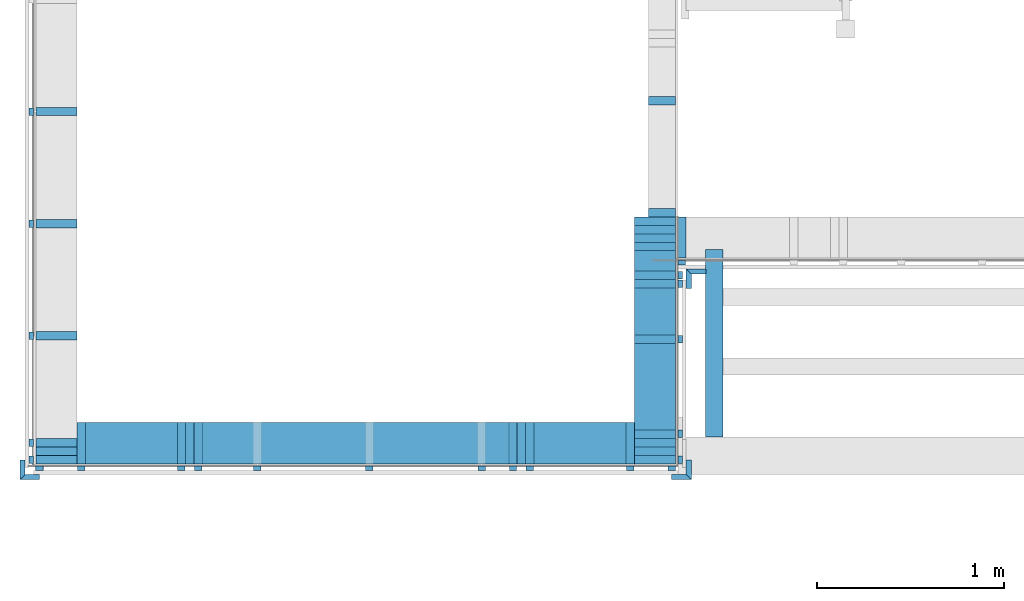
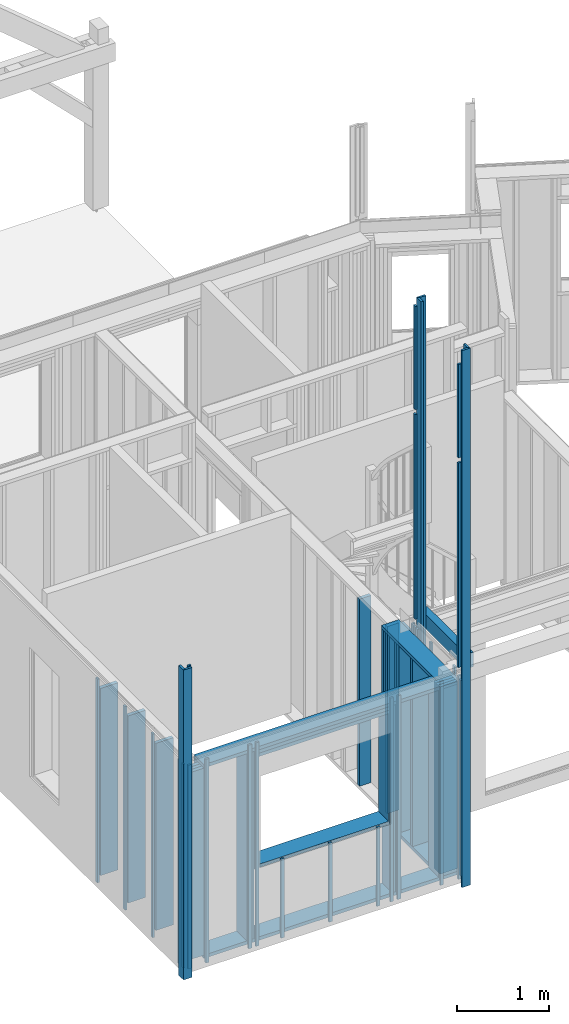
# One storey, part 4 of 34: 68 members, 1 beam.
"""IFC2X3 building model written with IfcOpenShell, lengths in metres."""

from ifc_helpers import new_model, si_unit, direction, frame, origin_with_axes, place, context, subcontext, project, spatial, faceted_brep, material, element, save


model = new_model("IFC2X3")

# Units and contexts
model_context = context("Model", 3, precision=1e-06, world=origin_with_axes(), true_north=direction((0.0, 1.0, 0.0)))
body_context = subcontext(model_context, "Body", "Model", "MODEL_VIEW")
ifc_project = project(units=[si_unit("LENGTHUNIT", "METRE"), si_unit("AREAUNIT", "SQUARE_METRE"), si_unit("VOLUMEUNIT", "CUBIC_METRE"), si_unit("PLANEANGLEUNIT", "RADIAN")], contexts=[model_context])

# Site, building, storey
site_placement = place(None, origin_with_axes())
site = spatial("IfcSite", under=ifc_project, at=site_placement, CompositionType="ELEMENT")
building_placement = place(site_placement, origin_with_axes())
building = spatial("IfcBuilding", under=site, at=building_placement, Name="Building 1", CompositionType="ELEMENT")
storey_placement = place(building_placement, origin_with_axes())
storey = spatial("IfcBuildingStorey", under=building, at=storey_placement, Name="Rez de chaussée", CompositionType="ELEMENT", Elevation=0.0)

# Members
ifc_material_1 = material(Name="Epicéa C24")
member_1_placement = place(storey_placement, frame((-0.013, 0.0345, 2.703), z_axis=(-1.0, 0.0, 0.0), x_axis=(0.0, 0.0, -1.0)))
element("IfcMember", 1, at=member_1_placement, inside=storey, material=ifc_material_1, Name="latte 27/40", context=body_context, shape_type="Brep", body=[
    faceted_brep([(0.0, -0.02, 0.012), (0.0, 0.02, 0.012), (0.0, 0.02, -0.012), (0.0, -0.02, -0.012), (2.698, 0.02, -0.012), (2.698, -0.02, -0.012), (2.698, -0.02, 0.012), (2.698, 0.02, 0.012)], [[[0, 1, 2, 3]], [[3, 2, 4, 5]], [[0, 3, 5, 6]], [[1, 0, 6, 7]], [[7, 6, 5, 4]], [[2, 1, 7, 4]]]),
])
for number, where, z_axis, x_axis, name in (
    (2, (3.4705, 1.2228281, 2.568), (0.0, 1.0, 0.0), (0.0, 0.0, -1.0), "Montant"),
    (3, (3.326, 0.1245, 2.568), (1.0, 0.0, 0.0), (0.0, 0.0, -1.0), "Montant"),
):
    element("IfcMember", number, at=place(storey_placement, frame(where, z_axis=z_axis, x_axis=x_axis)), inside=storey, material=ifc_material_1, Name=name, context=body_context, shape_type="Brep", body=[
        faceted_brep([(2.478, -0.0225, -0.11), (2.478, 0.0225, -0.11), (2.478, 0.0225, 0.11), (2.478, -0.0225, 0.11), (0.0, -0.0225, 0.11), (0.0, -0.0225, -0.11), (0.0, 0.0225, -0.11), (0.0, 0.0225, 0.11)], [[[0, 1, 2, 3]], [[0, 3, 4, 5]], [[1, 0, 5, 6]], [[2, 1, 6, 7]], [[3, 2, 7, 4]], [[4, 7, 6, 5]]]),
    ])
member_2_placement = place(storey_placement, frame((2.5665, -0.013, 2.703), z_axis=(0.0, -1.0, 0.0), x_axis=(0.0, 0.0, -1.0)))
element("IfcMember", 4, at=member_2_placement, inside=storey, material=ifc_material_1, Name="latte 27/40", context=body_context, shape_type="Brep", body=[
    faceted_brep([(2.698, 0.02, -0.012), (2.698, 0.02, 0.012), (2.698, -0.02, 0.012), (2.698, -0.02, -0.012), (0.0, 0.02, 0.012), (0.0, 0.02, -0.012), (0.0, -0.02, -0.012), (0.0, -0.02, 0.012)], [[[0, 1, 2, 3]], [[4, 5, 6, 7]], [[3, 6, 5, 0]], [[2, 7, 6, 3]], [[1, 4, 7, 2]], [[0, 5, 4, 1]]]),
])
member_3_placement = place(storey_placement, frame((0.03, -0.013, 4.0178151), z_axis=(0.0, -1.0, 0.0), x_axis=(0.0, 0.0, -1.0)))
element("IfcMember", 5, at=member_3_placement, inside=storey, material=ifc_material_1, Name="latte chantier", context=body_context, shape_type="Brep", body=[
    faceted_brep([(1.2078151, 0.02, -0.012), (1.2078151, 0.02, 0.012), (1.2078151, -0.02, 0.012), (1.2078151, -0.02, -0.012), (0.0, 0.02, 0.012), (0.0, 0.02, -0.012), (0.0, -0.02, -0.012), (0.0, -0.02, 0.012)], [[[0, 1, 2, 3]], [[4, 5, 6, 7]], [[3, 6, 5, 0]], [[2, 7, 6, 3]], [[1, 4, 7, 2]], [[0, 5, 4, 1]]]),
])
member_4_placement = place(storey_placement, frame((3.1935, 0.122, 2.568), z_axis=(0.0, -1.0, 0.0), x_axis=(0.0, 0.0, -1.0)))
element("IfcMember", 6, at=member_4_placement, inside=storey, material=ifc_material_1, Name="Montant", context=body_context, shape_type="Brep", body=[
    faceted_brep([(2.478, -0.0225, -0.11), (2.478, 0.0225, -0.11), (2.478, 0.0225, 0.11), (2.478, -0.0225, 0.11), (0.0, -0.0225, 0.11), (0.0, -0.0225, -0.11), (0.0, 0.0225, -0.11), (0.0, 0.0225, 0.11)], [[[0, 1, 2, 3]], [[0, 3, 4, 5]], [[1, 0, 5, 6]], [[2, 1, 6, 7]], [[3, 2, 7, 4]], [[4, 7, 6, 5]]]),
])
ifc_material_2 = material(Name="NH II")
member_5_placement = place(storey_placement, frame((3.4685, -0.0595, -0.08), z_axis=(1.0, 0.0, 0.0), x_axis=(0.0, 0.0, 1.0)))
element("IfcMember", 7, at=member_5_placement, inside=storey, material=ifc_material_2, Name="Couvre joint", context=body_context, shape_type="Brep", body=[
    faceted_brep([(0.0, 0.0135, 0.0525), (0.0, -0.0135, 0.0255), (7.1104713, -0.0135, 0.0255), (7.1104713, 0.0135, 0.0525), (7.1104713, -0.0135, -0.0525), (7.1104713, 0.0135, -0.0525), (0.0, -0.0135, -0.0525), (0.0, 0.0135, -0.0525)], [[[0, 1, 2, 3]], [[3, 2, 4, 5]], [[2, 1, 6, 4]], [[1, 0, 7, 6]], [[4, 6, 7, 5]], [[5, 7, 0, 3]]]),
])
for number, where, z_axis, x_axis, name in (
    (8, (3.461, 0.9758281, 2.703), (-1.0, 0.0, 0.0), (0.0, 0.0, -1.0), "latte 27/40"),
    (9, (-0.013, 0.1245, 2.703), (-1.0, 0.0, 0.0), (0.0, 0.0, -1.0), "latte 27/40"),
):
    element("IfcMember", number, at=place(storey_placement, frame(where, z_axis=z_axis, x_axis=x_axis)), inside=storey, material=ifc_material_1, Name=name, context=body_context, shape_type="Brep", body=[
        faceted_brep([(0.0, -0.02, 0.012), (0.0, 0.02, 0.012), (0.0, 0.02, -0.012), (0.0, -0.02, -0.012), (2.698, 0.02, -0.012), (2.698, -0.02, -0.012), (2.698, -0.02, 0.012), (2.698, 0.02, 0.012)], [[[0, 1, 2, 3]], [[3, 2, 4, 5]], [[0, 3, 5, 6]], [[1, 0, 6, 7]], [[7, 6, 5, 4]], [[2, 1, 7, 4]]]),
    ])
member_6_placement = place(storey_placement, frame((3.416, -0.013, 5.5204713), z_axis=(0.0, -1.0, 0.0), x_axis=(0.0, 0.0, -1.0)))
element("IfcMember", 10, at=member_6_placement, inside=storey, material=ifc_material_1, Name="latte chantier", context=body_context, shape_type="Brep", body=[
    faceted_brep([(2.7104713, 0.02, -0.012), (2.7104713, 0.02, 0.012), (2.7104713, -0.02, 0.012), (2.7104713, -0.02, -0.012), (0.0, 0.02, 0.012), (0.0, 0.02, -0.012), (0.0, -0.02, -0.012), (0.0, -0.02, 0.012)], [[[0, 1, 2, 3]], [[4, 5, 6, 7]], [[3, 6, 5, 0]], [[2, 7, 6, 3]], [[1, 4, 7, 2]], [[0, 5, 4, 1]]]),
])
member_7_placement = place(storey_placement, frame((0.7915, 0.122, 2.568), z_axis=(0.0, -1.0, 0.0), x_axis=(0.0, 0.0, -1.0)))
element("IfcMember", 11, at=member_7_placement, inside=storey, material=ifc_material_1, Name="Montant", context=body_context, shape_type="Brep", body=[
    faceted_brep([(2.478, -0.0225, -0.11), (2.478, 0.0225, -0.11), (2.478, 0.0225, 0.11), (2.478, -0.0225, 0.11), (0.0, -0.0225, 0.11), (0.0, -0.0225, -0.11), (0.0, 0.0225, -0.11), (0.0, 0.0225, 0.11)], [[[0, 1, 2, 3]], [[0, 3, 4, 5]], [[1, 0, 5, 6]], [[2, 1, 6, 7]], [[3, 2, 7, 4]], [[4, 7, 6, 5]]]),
])
member_8_placement = place(storey_placement, frame((3.5075, 1.0023281, -0.08), z_axis=(0.0, 1.0, 0.0), x_axis=(0.0, 0.0, 1.0)))
element("IfcMember", 12, at=member_8_placement, inside=storey, material=ifc_material_2, Name="Couvre joint", context=body_context, shape_type="Brep", body=[
    faceted_brep([(0.0, 0.0135, 0.0255), (0.0, -0.0135, 0.0525), (7.1104713, -0.0135, 0.0525), (7.1104713, 0.0135, 0.0255), (7.1104713, -0.0135, -0.0525), (7.1104713, 0.0135, -0.0525), (0.0, 0.0135, -0.0525), (0.0, -0.0135, -0.0525)], [[[0, 1, 2, 3]], [[3, 2, 4, 5]], [[1, 0, 6, 7]], [[4, 7, 6, 5]], [[2, 1, 7, 4]], [[0, 3, 5, 6]]]),
])
for number, where, z_axis, x_axis, name in (
    (13, (0.2545, -0.013, 2.703), (0.0, -1.0, 0.0), (0.0, 0.0, -1.0), "latte 27/40"),
    (14, (3.4705, 1.0878281, 2.703), (0.0, 1.0, 0.0), (0.0, 0.0, -1.0), "latte 27/40"),
):
    element("IfcMember", number, at=place(storey_placement, frame(where, z_axis=z_axis, x_axis=x_axis)), inside=storey, material=ifc_material_1, Name=name, context=body_context, shape_type="Brep", body=[
        faceted_brep([(2.698, 0.02, -0.012), (2.698, 0.02, 0.012), (2.698, -0.02, 0.012), (2.698, -0.02, -0.012), (0.0, 0.02, 0.012), (0.0, 0.02, -0.012), (0.0, -0.02, -0.012), (0.0, -0.02, 0.012)], [[[0, 1, 2, 3]], [[4, 5, 6, 7]], [[3, 6, 5, 0]], [[2, 7, 6, 3]], [[1, 4, 7, 2]], [[0, 5, 4, 1]]]),
    ])
for number, where, z_axis, x_axis, name in (
    (15, (0.122, 0.0345, 2.568), (-1.0, 0.0, 0.0), (0.0, 0.0, -1.0), "Montant"),
    (16, (3.326, 0.0795, 2.568), (1.0, 0.0, 0.0), (0.0, 0.0, -1.0), "Montant"),
):
    element("IfcMember", number, at=place(storey_placement, frame(where, z_axis=z_axis, x_axis=x_axis)), inside=storey, material=ifc_material_1, Name=name, context=body_context, shape_type="Brep", body=[
        faceted_brep([(2.478, -0.0225, -0.11), (2.478, 0.0225, -0.11), (2.478, 0.0225, 0.11), (2.478, -0.0225, 0.11), (0.0, -0.0225, 0.11), (0.0, -0.0225, -0.11), (0.0, 0.0225, -0.11), (0.0, 0.0225, 0.11)], [[[0, 1, 2, 3]], [[0, 3, 4, 5]], [[1, 0, 5, 6]], [[2, 1, 6, 7]], [[3, 2, 7, 4]], [[4, 7, 6, 5]]]),
    ])
member_9_placement = place(storey_placement, frame((-0.0595, -0.0205, -0.08), z_axis=(0.0, 1.0, 0.0), x_axis=(0.0, 0.0, 1.0)))
element("IfcMember", 17, at=member_9_placement, inside=storey, material=ifc_material_2, Name="Couvre joint", context=body_context, shape_type="Brep", body=[
    faceted_brep([(0.0, -0.0135, -0.0525), (0.0, 0.0135, -0.0255), (4.1028151, 0.0135, -0.0255), (4.1028151, -0.0135, -0.0525), (4.1028151, 0.0135, 0.0525), (4.1028151, -0.0135, 0.0525), (0.0, 0.0135, 0.0525), (0.0, -0.0135, 0.0525)], [[[0, 1, 2, 3]], [[3, 2, 4, 5]], [[2, 1, 6, 4]], [[1, 0, 7, 6]], [[5, 7, 0, 3]], [[4, 6, 7, 5]]]),
])
for number, where, z_axis, x_axis, name in (
    (18, (0.122, 0.698, 2.568), (-1.0, 0.0, 0.0), (0.0, 0.0, -1.0), "Montant"),
    (19, (3.326, 1.2653281, 2.568), (-1.0, 0.0, 0.0), (0.0, 0.0, -1.0), "Montant"),
    (20, (3.326, 0.6795, 2.568), (1.0, 0.0, 0.0), (0.0, 0.0, -1.0), "Montant"),
    (21, (3.326, 0.9758281, 2.568), (-1.0, 0.0, 0.0), (0.0, 0.0, -1.0), "Montant"),
):
    element("IfcMember", number, at=place(storey_placement, frame(where, z_axis=z_axis, x_axis=x_axis)), inside=storey, material=ifc_material_1, Name=name, context=body_context, shape_type="Brep", body=[
        faceted_brep([(2.478, -0.0225, -0.11), (2.478, 0.0225, -0.11), (2.478, 0.0225, 0.11), (2.478, -0.0225, 0.11), (0.0, -0.0225, 0.11), (0.0, -0.0225, -0.11), (0.0, 0.0225, -0.11), (0.0, 0.0225, 0.11)], [[[0, 1, 2, 3]], [[0, 3, 4, 5]], [[1, 0, 5, 6]], [[2, 1, 6, 7]], [[3, 2, 7, 4]], [[4, 7, 6, 5]]]),
    ])
member_10_placement = place(storey_placement, frame((-0.013, 1.898, 2.703), z_axis=(-1.0, 0.0, 0.0), x_axis=(0.0, 0.0, -1.0)))
element("IfcMember", 22, at=member_10_placement, inside=storey, material=ifc_material_1, Name="latte 27/40", context=body_context, shape_type="Brep", body=[
    faceted_brep([(0.0, -0.02, 0.012), (0.0, 0.02, 0.012), (0.0, 0.02, -0.012), (0.0, -0.02, -0.012), (2.698, 0.02, -0.012), (2.698, -0.02, -0.012), (2.698, -0.02, 0.012), (2.698, 0.02, 0.012)], [[[0, 1, 2, 3]], [[3, 2, 4, 5]], [[0, 3, 5, 6]], [[1, 0, 6, 7]], [[7, 6, 5, 4]], [[2, 1, 7, 4]]]),
])

# Beam
beam_placement = place(storey_placement, frame((3.644, 1.1588281, 2.709), z_axis=(0.0, 0.0, -1.0), x_axis=(0.0, -1.0, 0.0)))
element("IfcBeam", 23, at=beam_placement, inside=storey, material=ifc_material_2, Name="Solive balcon", context=body_context, shape_type="Brep", body=[
    faceted_brep([(1.0028281, -0.046, 0.096), (1.0028281, -0.046, -0.096), (1.0028281, 0.046, -0.096), (1.0028281, 0.046, 0.096), (0.0, -0.046, -0.096), (0.0, -0.046, 0.096), (0.0, 0.046, 0.096), (0.0, 0.046, -0.096)], [[[0, 1, 2, 3]], [[4, 5, 6, 7]], [[3, 6, 5, 0]], [[2, 7, 6, 3]], [[1, 4, 7, 2]], [[0, 5, 4, 1]]]),
])

# Members
for number, where, z_axis, x_axis, name in (
    (24, (0.122, 0.1245, 2.568), (-1.0, 0.0, 0.0), (0.0, 0.0, -1.0), "Montant"),
    (25, (3.326, 1.3103281, 2.568), (-1.0, 0.0, 0.0), (0.0, 0.0, -1.0), "Montant"),
):
    element("IfcMember", number, at=place(storey_placement, frame(where, z_axis=z_axis, x_axis=x_axis)), inside=storey, material=ifc_material_1, Name=name, context=body_context, shape_type="Brep", body=[
        faceted_brep([(2.478, -0.0225, -0.11), (2.478, 0.0225, -0.11), (2.478, 0.0225, 0.11), (2.478, -0.0225, 0.11), (0.0, -0.0225, 0.11), (0.0, -0.0225, -0.11), (0.0, 0.0225, -0.11), (0.0, 0.0225, 0.11)], [[[0, 1, 2, 3]], [[0, 3, 4, 5]], [[1, 0, 5, 6]], [[2, 1, 6, 7]], [[3, 2, 7, 4]], [[4, 7, 6, 5]]]),
    ])
member_11_placement = place(storey_placement, frame((0.8815, 0.122, 2.478), z_axis=(0.0, -1.0, 0.0), x_axis=(0.0, 0.0, -1.0)))
element("IfcMember", 26, at=member_11_placement, inside=storey, material=ifc_material_1, Name="Montant", context=body_context, shape_type="Brep", body=[
    faceted_brep([(1.426, -0.0225, -0.11), (1.426, 0.0225, -0.11), (1.426, 0.0225, 0.11), (1.426, -0.0225, 0.11), (0.0, -0.0225, 0.11), (0.0, -0.0225, -0.11), (0.0, 0.0225, -0.11), (0.0, 0.0225, 0.11)], [[[0, 1, 2, 3]], [[0, 3, 4, 5]], [[1, 0, 5, 6]], [[2, 1, 6, 7]], [[3, 2, 7, 4]], [[4, 7, 6, 5]]]),
])
member_12_placement = place(storey_placement, frame((3.5465, 1.0413281, -0.08), z_axis=(1.0, 0.0, 0.0), x_axis=(0.0, 0.0, 1.0)))
element("IfcMember", 27, at=member_12_placement, inside=storey, material=ifc_material_2, Name="Couvre joint", context=body_context, shape_type="Brep", body=[
    faceted_brep([(0.0, -0.0135, -0.0525), (0.0, 0.0135, -0.0255), (7.1104713, 0.0135, -0.0255), (7.1104713, -0.0135, -0.0525), (0.0, 0.0135, 0.0525), (7.1104713, 0.0135, 0.0525), (0.0, -0.0135, 0.0525), (7.1104713, -0.0135, 0.0525)], [[[0, 1, 2, 3]], [[2, 1, 4, 5]], [[1, 0, 6, 4]], [[3, 2, 5, 7]], [[7, 6, 0, 3]], [[5, 4, 6, 7]]]),
])
for number, where, z_axis, x_axis, name in (
    (28, (0.8365, 0.122, 2.568), (0.0, -1.0, 0.0), (0.0, 0.0, -1.0), "Montant"),
    (29, (0.2545, 0.122, 2.568), (0.0, -1.0, 0.0), (0.0, 0.0, -1.0), "Montant"),
):
    element("IfcMember", number, at=place(storey_placement, frame(where, z_axis=z_axis, x_axis=x_axis)), inside=storey, material=ifc_material_1, Name=name, context=body_context, shape_type="Brep", body=[
        faceted_brep([(2.478, -0.0225, -0.11), (2.478, 0.0225, -0.11), (2.478, 0.0225, 0.11), (2.478, -0.0225, 0.11), (0.0, -0.0225, 0.11), (0.0, -0.0225, -0.11), (0.0, 0.0225, -0.11), (0.0, 0.0225, 0.11)], [[[0, 1, 2, 3]], [[0, 3, 4, 5]], [[1, 0, 5, 6]], [[2, 1, 6, 7]], [[3, 2, 7, 4]], [[4, 7, 6, 5]]]),
    ])
member_13_placement = place(storey_placement, frame((0.232, 0.122, 2.5905), z_axis=(0.0, 1.0, 0.0), x_axis=(1.0, 0.0, 0.0)))
element("IfcMember", 30, at=member_13_placement, inside=storey, material=ifc_material_1, Name="Montant", context=body_context, shape_type="Brep", body=[
    faceted_brep([(2.984, 0.0225, -0.11), (0.0, 0.0225, -0.11), (0.0, 0.0225, 0.11), (2.984, 0.0225, 0.11), (2.984, -0.0225, 0.11), (2.984, -0.0225, -0.11), (0.0, -0.0225, 0.11), (0.0, -0.0225, -0.11)], [[[0, 1, 2, 3]], [[3, 4, 5, 0]], [[6, 2, 1, 7]], [[5, 7, 1, 0]], [[6, 7, 5, 4]], [[2, 6, 4, 3]]]),
])
member_14_placement = place(storey_placement, frame((3.416, -0.013, 2.703), z_axis=(0.0, -1.0, 0.0), x_axis=(0.0, 0.0, -1.0)))
element("IfcMember", 31, at=member_14_placement, inside=storey, material=ifc_material_1, Name="latte chantier", context=body_context, shape_type="Brep", body=[
    faceted_brep([(2.698, 0.02, -0.012), (2.698, 0.02, 0.012), (2.698, -0.02, 0.012), (2.698, -0.02, -0.012), (0.0, 0.02, 0.012), (0.0, 0.02, -0.012), (0.0, -0.02, -0.012), (0.0, -0.02, 0.012)], [[[0, 1, 2, 3]], [[4, 5, 6, 7]], [[3, 6, 5, 0]], [[2, 7, 6, 3]], [[1, 4, 7, 2]], [[0, 5, 4, 1]]]),
])
for number, where, z_axis, x_axis, name in (
    (32, (0.122, 1.298, 2.568), (-1.0, 0.0, 0.0), (0.0, 0.0, -1.0), "Montant"),
    (33, (3.326, 1.0208281, 2.568), (-1.0, 0.0, 0.0), (0.0, 0.0, -1.0), "Montant"),
    (34, (0.122, 0.0795, 2.568), (-1.0, 0.0, 0.0), (0.0, 0.0, -1.0), "Montant"),
):
    element("IfcMember", number, at=place(storey_placement, frame(where, z_axis=z_axis, x_axis=x_axis)), inside=storey, material=ifc_material_1, Name=name, context=body_context, shape_type="Brep", body=[
        faceted_brep([(2.478, -0.0225, -0.11), (2.478, 0.0225, -0.11), (2.478, 0.0225, 0.11), (2.478, -0.0225, 0.11), (0.0, -0.0225, 0.11), (0.0, -0.0225, -0.11), (0.0, 0.0225, -0.11), (0.0, 0.0225, 0.11)], [[[0, 1, 2, 3]], [[0, 3, 4, 5]], [[1, 0, 5, 6]], [[2, 1, 6, 7]], [[3, 2, 7, 4]], [[4, 7, 6, 5]]]),
    ])
member_15_placement = place(storey_placement, frame((3.461, 1.0208281, 2.703), z_axis=(-1.0, 0.0, 0.0), x_axis=(0.0, 0.0, -1.0)))
element("IfcMember", 35, at=member_15_placement, inside=storey, material=ifc_material_1, Name="latte chantier", context=body_context, shape_type="Brep", body=[
    faceted_brep([(0.0, -0.02, 0.012), (0.0, 0.02, 0.012), (0.0, 0.02, -0.012), (0.0, -0.02, -0.012), (2.698, 0.02, -0.012), (2.698, -0.02, -0.012), (2.698, -0.02, 0.012), (2.698, 0.02, 0.012)], [[[0, 1, 2, 3]], [[3, 2, 4, 5]], [[0, 3, 5, 6]], [[1, 0, 6, 7]], [[7, 6, 5, 4]], [[2, 1, 7, 4]]]),
])
member_16_placement = place(storey_placement, frame((3.326, 0.0345, 2.568), z_axis=(1.0, 0.0, 0.0), x_axis=(0.0, 0.0, -1.0)))
element("IfcMember", 36, at=member_16_placement, inside=storey, material=ifc_material_1, Name="Montant", context=body_context, shape_type="Brep", body=[
    faceted_brep([(2.478, -0.0225, -0.11), (2.478, 0.0225, -0.11), (2.478, 0.0225, 0.11), (2.478, -0.0225, 0.11), (0.0, -0.0225, 0.11), (0.0, -0.0225, -0.11), (0.0, 0.0225, -0.11), (0.0, 0.0225, 0.11)], [[[0, 1, 2, 3]], [[0, 3, 4, 5]], [[1, 0, 5, 6]], [[2, 1, 6, 7]], [[3, 2, 7, 4]], [[4, 7, 6, 5]]]),
])
for number, where, z_axis, x_axis, name in (
    (37, (0.032, -0.013, 2.703), (0.0, -1.0, 0.0), (0.0, 0.0, -1.0), "latte chantier"),
    (38, (3.1935, -0.013, 2.703), (0.0, -1.0, 0.0), (0.0, 0.0, -1.0), "latte 27/40"),
):
    element("IfcMember", number, at=place(storey_placement, frame(where, z_axis=z_axis, x_axis=x_axis)), inside=storey, material=ifc_material_1, Name=name, context=body_context, shape_type="Brep", body=[
        faceted_brep([(2.698, 0.02, -0.012), (2.698, 0.02, 0.012), (2.698, -0.02, 0.012), (2.698, -0.02, -0.012), (0.0, 0.02, 0.012), (0.0, 0.02, -0.012), (0.0, -0.02, -0.012), (0.0, -0.02, 0.012)], [[[0, 1, 2, 3]], [[4, 5, 6, 7]], [[3, 6, 5, 0]], [[2, 7, 6, 3]], [[1, 4, 7, 2]], [[0, 5, 4, 1]]]),
    ])
member_17_placement = place(storey_placement, frame((0.232, 0.122, 0.0675), z_axis=(0.0, 1.0, 0.0), x_axis=(1.0, 0.0, 0.0)))
element("IfcMember", 39, at=member_17_placement, inside=storey, material=ifc_material_1, Name="Lisse basse", context=body_context, shape_type="Brep", body=[
    faceted_brep([(2.984, 0.0225, -0.11), (0.0, 0.0225, -0.11), (0.0, 0.0225, 0.11), (2.984, 0.0225, 0.11), (2.984, -0.0225, 0.11), (2.984, -0.0225, -0.11), (0.0, -0.0225, 0.11), (0.0, -0.0225, -0.11)], [[[0, 1, 2, 3]], [[3, 4, 5, 0]], [[6, 2, 1, 7]], [[5, 7, 1, 0]], [[6, 7, 5, 4]], [[2, 6, 4, 3]]]),
])
member_18_placement = place(storey_placement, frame((3.326, 0.012, 0.0675), z_axis=(-1.0, 0.0, 0.0), x_axis=(0.0, 1.0, 0.0)))
element("IfcMember", 40, at=member_18_placement, inside=storey, material=ifc_material_1, Name="Lisse basse", context=body_context, shape_type="Brep", body=[
    faceted_brep([(1.3208281, -0.0225, -0.11), (0.0, -0.0225, -0.11), (0.0, 0.0225, -0.11), (1.3208281, 0.0225, -0.11), (1.3208281, 0.0225, 0.11), (1.3208281, -0.0225, 0.11), (0.0, -0.0225, 0.11), (0.0, 0.0225, 0.11)], [[[0, 1, 2, 3]], [[3, 4, 5, 0]], [[6, 1, 0, 5]], [[2, 7, 4, 3]], [[7, 6, 5, 4]], [[2, 1, 6, 7]]]),
])
member_19_placement = place(storey_placement, frame((3.461, 0.6795, 2.703), z_axis=(1.0, 0.0, 0.0), x_axis=(0.0, 0.0, -1.0)))
element("IfcMember", 41, at=member_19_placement, inside=storey, material=ifc_material_1, Name="latte 27/40", context=body_context, shape_type="Brep", body=[
    faceted_brep([(0.0, -0.02, 0.012), (0.0, 0.02, 0.012), (0.0, 0.02, -0.012), (0.0, -0.02, -0.012), (2.698, 0.02, -0.012), (2.698, -0.02, -0.012), (2.698, 0.02, 0.012), (2.698, -0.02, 0.012)], [[[0, 1, 2, 3]], [[3, 2, 4, 5]], [[2, 1, 6, 4]], [[1, 0, 7, 6]], [[6, 7, 5, 4]], [[0, 3, 5, 7]]]),
])
member_20_placement = place(storey_placement, frame((3.326, 0.012, 2.5905), z_axis=(-1.0, 0.0, 0.0), x_axis=(0.0, 1.0, 0.0)))
element("IfcMember", 42, at=member_20_placement, inside=storey, material=ifc_material_1, Name="Montant", context=body_context, shape_type="Brep", body=[
    faceted_brep([(1.3208281, -0.0225, -0.11), (0.0, -0.0225, -0.11), (0.0, 0.0225, -0.11), (1.3208281, 0.0225, -0.11), (1.3208281, 0.0225, 0.11), (1.3208281, -0.0225, 0.11), (0.0, -0.0225, 0.11), (0.0, 0.0225, 0.11)], [[[0, 1, 2, 3]], [[3, 4, 5, 0]], [[6, 1, 0, 5]], [[2, 7, 4, 3]], [[7, 6, 5, 4]], [[2, 1, 6, 7]]]),
])
member_21_placement = place(storey_placement, frame((3.461, 0.0345, 2.6), z_axis=(1.0, 0.0, 0.0), x_axis=(0.0, 0.0, -1.0)))
element("IfcMember", 43, at=member_21_placement, inside=storey, material=ifc_material_1, Name="latte 27/40", context=body_context, shape_type="Brep", body=[
    faceted_brep([(0.0, -0.02, 0.012), (0.0, 0.02, 0.012), (0.0, 0.02, -0.012), (0.0, -0.02, -0.012), (2.595, 0.02, -0.012), (2.595, -0.02, -0.012), (2.595, 0.02, 0.012), (2.595, -0.02, 0.012)], [[[0, 1, 2, 3]], [[3, 2, 4, 5]], [[2, 1, 6, 4]], [[1, 0, 7, 6]], [[6, 7, 5, 4]], [[0, 3, 5, 7]]]),
])
member_22_placement = place(storey_placement, frame((3.3635, 1.9553281, 2.568), z_axis=(1.0, 0.0, 0.0), x_axis=(0.0, 0.0, -1.0)))
element("IfcMember", 44, at=member_22_placement, inside=storey, material=ifc_material_1, Name="Montant", context=body_context, shape_type="Brep", body=[
    faceted_brep([(2.478, -0.0225, -0.0725), (2.478, 0.0225, -0.0725), (2.478, 0.0225, 0.0725), (2.478, -0.0225, 0.0725), (0.0, 0.0225, -0.0725), (0.0, 0.0225, 0.0725), (0.0, -0.0225, -0.0725), (0.0, -0.0225, 0.0725)], [[[0, 1, 2, 3]], [[2, 1, 4, 5]], [[1, 0, 6, 4]], [[0, 3, 7, 6]], [[3, 2, 5, 7]], [[7, 5, 4, 6]]]),
])
member_23_placement = place(storey_placement, frame((3.461, 1.0208281, 5.5204713), z_axis=(-1.0, 0.0, 0.0), x_axis=(0.0, 0.0, -1.0)))
element("IfcMember", 45, at=member_23_placement, inside=storey, material=ifc_material_1, Name="latte chantier", context=body_context, shape_type="Brep", body=[
    faceted_brep([(2.7104713, -0.02, -0.012), (2.7104713, 0.02, -0.012), (2.7104713, 0.02, 0.012), (2.7104713, -0.02, 0.012), (0.0, 0.02, 0.012), (0.0, -0.02, 0.012), (0.0, 0.02, -0.012), (0.0, -0.02, -0.012)], [[[0, 1, 2, 3]], [[3, 2, 4, 5]], [[2, 1, 6, 4]], [[1, 0, 7, 6]], [[6, 7, 5, 4]], [[0, 3, 5, 7]]]),
])
member_24_placement = place(storey_placement, frame((3.3635, 1.3553281, 2.568), z_axis=(1.0, 0.0, 0.0), x_axis=(0.0, 0.0, -1.0)))
element("IfcMember", 46, at=member_24_placement, inside=storey, material=ifc_material_1, Name="Montant", context=body_context, shape_type="Brep", body=[
    faceted_brep([(2.478, -0.0225, -0.0725), (2.478, 0.0225, -0.0725), (2.478, 0.0225, 0.0725), (2.478, -0.0225, 0.0725), (0.0, 0.0225, -0.0725), (0.0, 0.0225, 0.0725), (0.0, -0.0225, -0.0725), (0.0, -0.0225, 0.0725)], [[[0, 1, 2, 3]], [[2, 1, 4, 5]], [[1, 0, 6, 4]], [[0, 3, 7, 6]], [[3, 2, 5, 7]], [[7, 5, 4, 6]]]),
])
member_25_placement = place(storey_placement, frame((3.326, 0.1695, 2.568), z_axis=(1.0, 0.0, 0.0), x_axis=(0.0, 0.0, -1.0)))
element("IfcMember", 47, at=member_25_placement, inside=storey, material=ifc_material_1, Name="Montant", context=body_context, shape_type="Brep", body=[
    faceted_brep([(2.478, -0.0225, -0.11), (2.478, 0.0225, -0.11), (2.478, 0.0225, 0.11), (2.478, -0.0225, 0.11), (0.0, -0.0225, 0.11), (0.0, -0.0225, -0.11), (0.0, 0.0225, -0.11), (0.0, 0.0225, 0.11)], [[[0, 1, 2, 3]], [[0, 3, 4, 5]], [[1, 0, 5, 6]], [[2, 1, 6, 7]], [[3, 2, 7, 4]], [[4, 7, 6, 5]]]),
])
member_26_placement = place(storey_placement, frame((3.461, 0.172, 2.703), z_axis=(1.0, 0.0, 0.0), x_axis=(0.0, 0.0, -1.0)))
element("IfcMember", 48, at=member_26_placement, inside=storey, material=ifc_material_1, Name="latte 27/40", context=body_context, shape_type="Brep", body=[
    faceted_brep([(0.0, -0.02, 0.012), (0.0, 0.02, 0.012), (0.0, 0.02, -0.012), (0.0, -0.02, -0.012), (2.698, 0.02, -0.012), (2.698, -0.02, -0.012), (2.698, 0.02, 0.012), (2.698, -0.02, 0.012)], [[[0, 1, 2, 3]], [[3, 2, 4, 5]], [[2, 1, 6, 4]], [[1, 0, 7, 6]], [[6, 7, 5, 4]], [[0, 3, 5, 7]]]),
])
member_27_placement = place(storey_placement, frame((2.5665, 0.122, 2.478), z_axis=(0.0, -1.0, 0.0), x_axis=(0.0, 0.0, -1.0)))
element("IfcMember", 49, at=member_27_placement, inside=storey, material=ifc_material_1, Name="Montant", context=body_context, shape_type="Brep", body=[
    faceted_brep([(1.426, -0.0225, -0.11), (1.426, 0.0225, -0.11), (1.426, 0.0225, 0.11), (1.426, -0.0225, 0.11), (0.0, -0.0225, 0.11), (0.0, -0.0225, -0.11), (0.0, 0.0225, -0.11), (0.0, 0.0225, 0.11)], [[[0, 1, 2, 3]], [[0, 3, 4, 5]], [[1, 0, 5, 6]], [[2, 1, 6, 7]], [[3, 2, 7, 4]], [[4, 7, 6, 5]]]),
])
member_28_placement = place(storey_placement, frame((-0.013, 1.298, 2.703), z_axis=(-1.0, 0.0, 0.0), x_axis=(0.0, 0.0, -1.0)))
element("IfcMember", 50, at=member_28_placement, inside=storey, material=ifc_material_1, Name="latte 27/40", context=body_context, shape_type="Brep", body=[
    faceted_brep([(0.0, -0.02, 0.012), (0.0, 0.02, 0.012), (0.0, 0.02, -0.012), (0.0, -0.02, -0.012), (2.698, 0.02, -0.012), (2.698, -0.02, -0.012), (2.698, -0.02, 0.012), (2.698, 0.02, 0.012)], [[[0, 1, 2, 3]], [[3, 2, 4, 5]], [[0, 3, 5, 6]], [[1, 0, 6, 7]], [[7, 6, 5, 4]], [[2, 1, 7, 4]]]),
])
member_29_placement = place(storey_placement, frame((1.798, -0.013, 1.052), z_axis=(0.0, -1.0, 0.0), x_axis=(0.0, 0.0, -1.0)))
element("IfcMember", 51, at=member_29_placement, inside=storey, material=ifc_material_1, Name="latte 27/40", context=body_context, shape_type="Brep", body=[
    faceted_brep([(1.047, 0.02, -0.012), (1.047, 0.02, 0.012), (1.047, -0.02, 0.012), (1.047, -0.02, -0.012), (0.0, 0.02, 0.012), (0.0, 0.02, -0.012), (0.0, -0.02, -0.012), (0.0, -0.02, 0.012)], [[[0, 1, 2, 3]], [[4, 5, 6, 7]], [[3, 6, 5, 0]], [[2, 7, 6, 3]], [[1, 4, 7, 2]], [[0, 5, 4, 1]]]),
])
member_30_placement = place(storey_placement, frame((-0.013, 0.698, 2.703), z_axis=(-1.0, 0.0, 0.0), x_axis=(0.0, 0.0, -1.0)))
element("IfcMember", 52, at=member_30_placement, inside=storey, material=ifc_material_1, Name="latte 27/40", context=body_context, shape_type="Brep", body=[
    faceted_brep([(0.0, -0.02, 0.012), (0.0, 0.02, 0.012), (0.0, 0.02, -0.012), (0.0, -0.02, -0.012), (2.698, 0.02, -0.012), (2.698, -0.02, -0.012), (2.698, -0.02, 0.012), (2.698, 0.02, 0.012)], [[[0, 1, 2, 3]], [[3, 2, 4, 5]], [[0, 3, 5, 6]], [[1, 0, 6, 7]], [[7, 6, 5, 4]], [[2, 1, 7, 4]]]),
])
member_31_placement = place(storey_placement, frame((1.198, -0.013, 1.052), z_axis=(0.0, -1.0, 0.0), x_axis=(0.0, 0.0, -1.0)))
element("IfcMember", 53, at=member_31_placement, inside=storey, material=ifc_material_1, Name="latte 27/40", context=body_context, shape_type="Brep", body=[
    faceted_brep([(1.047, 0.02, -0.012), (1.047, 0.02, 0.012), (1.047, -0.02, 0.012), (1.047, -0.02, -0.012), (0.0, 0.02, 0.012), (0.0, 0.02, -0.012), (0.0, -0.02, -0.012), (0.0, -0.02, 0.012)], [[[0, 1, 2, 3]], [[4, 5, 6, 7]], [[3, 6, 5, 0]], [[2, 7, 6, 3]], [[1, 4, 7, 2]], [[0, 5, 4, 1]]]),
])
member_32_placement = place(storey_placement, frame((3.461, 1.0208281, 6.9523725), z_axis=(-1.0, 0.0, 0.0), x_axis=(0.0, 0.0, -1.0)))
element("IfcMember", 54, at=member_32_placement, inside=storey, material=ifc_material_1, Name="latte chantier", context=body_context, shape_type="Brep", body=[
    faceted_brep([(1.3669012, -0.02, -0.012), (1.3669012, 0.02, -0.012), (1.3669012, 0.02, 0.012), (1.3669012, -0.02, 0.012), (0.0, 0.02, 0.012), (0.0, -0.02, 0.012), (0.0, 0.02, -0.012), (0.0, -0.02, -0.012)], [[[0, 1, 2, 3]], [[3, 2, 4, 5]], [[2, 1, 6, 4]], [[1, 0, 7, 6]], [[6, 7, 5, 4]], [[0, 3, 5, 7]]]),
])
member_33_placement = place(storey_placement, frame((3.416, -0.013, 6.8254713), z_axis=(0.0, -1.0, 0.0), x_axis=(0.0, 0.0, -1.0)))
element("IfcMember", 55, at=member_33_placement, inside=storey, material=ifc_material_1, Name="latte chantier", context=body_context, shape_type="Brep", body=[
    faceted_brep([(1.24, 0.02, -0.012), (1.24, 0.02, 0.012), (1.24, -0.02, 0.012), (1.24, -0.02, -0.012), (0.0, 0.02, 0.012), (0.0, 0.02, -0.012), (0.0, -0.02, -0.012), (0.0, -0.02, 0.012)], [[[0, 1, 2, 3]], [[4, 5, 6, 7]], [[3, 6, 5, 0]], [[2, 7, 6, 3]], [[1, 4, 7, 2]], [[0, 5, 4, 1]]]),
])
for number, where, z_axis, x_axis, name in (
    (56, (2.589, 0.122, 2.5455), (0.0, -1.0, 0.0), (-1.0, 0.0, 0.0), "Montant"),
    (57, (2.589, 0.122, 1.0295), (0.0, -1.0, 0.0), (-1.0, 0.0, 0.0), "Montant"),
):
    element("IfcMember", number, at=place(storey_placement, frame(where, z_axis=z_axis, x_axis=x_axis)), inside=storey, material=ifc_material_1, Name=name, context=body_context, shape_type="Brep", body=[
        faceted_brep([(0.0, 0.0225, -0.11), (0.0, -0.0225, -0.11), (0.0, -0.0225, 0.11), (0.0, 0.0225, 0.11), (1.73, -0.0225, -0.11), (1.73, 0.0225, -0.11), (1.73, 0.0225, 0.11), (1.73, -0.0225, 0.11)], [[[0, 1, 2, 3]], [[4, 5, 6, 7]], [[4, 7, 2, 1]], [[5, 4, 1, 0]], [[6, 5, 0, 3]], [[7, 6, 3, 2]]]),
    ])
member_34_placement = place(storey_placement, frame((0.8815, -0.013, 2.703), z_axis=(0.0, -1.0, 0.0), x_axis=(0.0, 0.0, -1.0)))
element("IfcMember", 58, at=member_34_placement, inside=storey, material=ifc_material_1, Name="latte 27/40", context=body_context, shape_type="Brep", body=[
    faceted_brep([(2.698, 0.02, -0.012), (2.698, 0.02, 0.012), (2.698, -0.02, 0.012), (2.698, -0.02, -0.012), (0.0, 0.02, 0.012), (0.0, 0.02, -0.012), (0.0, -0.02, -0.012), (0.0, -0.02, 0.012)], [[[0, 1, 2, 3]], [[4, 5, 6, 7]], [[3, 6, 5, 0]], [[2, 7, 6, 3]], [[1, 4, 7, 2]], [[0, 5, 4, 1]]]),
])
member_35_placement = place(storey_placement, frame((2.6115, 0.122, 2.568), z_axis=(0.0, -1.0, 0.0), x_axis=(0.0, 0.0, -1.0)))
element("IfcMember", 59, at=member_35_placement, inside=storey, material=ifc_material_1, Name="Montant", context=body_context, shape_type="Brep", body=[
    faceted_brep([(2.478, -0.0225, -0.11), (2.478, 0.0225, -0.11), (2.478, 0.0225, 0.11), (2.478, -0.0225, 0.11), (0.0, -0.0225, 0.11), (0.0, -0.0225, -0.11), (0.0, 0.0225, -0.11), (0.0, 0.0225, 0.11)], [[[0, 1, 2, 3]], [[0, 3, 4, 5]], [[1, 0, 5, 6]], [[2, 1, 6, 7]], [[3, 2, 7, 4]], [[4, 7, 6, 5]]]),
])
member_36_placement = place(storey_placement, frame((2.398, -0.013, 1.052), z_axis=(0.0, -1.0, 0.0), x_axis=(0.0, 0.0, -1.0)))
element("IfcMember", 60, at=member_36_placement, inside=storey, material=ifc_material_1, Name="latte 27/40", context=body_context, shape_type="Brep", body=[
    faceted_brep([(1.047, 0.02, -0.012), (1.047, 0.02, 0.012), (1.047, -0.02, 0.012), (1.047, -0.02, -0.012), (0.0, 0.02, 0.012), (0.0, 0.02, -0.012), (0.0, -0.02, -0.012), (0.0, -0.02, 0.012)], [[[0, 1, 2, 3]], [[4, 5, 6, 7]], [[3, 6, 5, 0]], [[2, 7, 6, 3]], [[1, 4, 7, 2]], [[0, 5, 4, 1]]]),
])
member_37_placement = place(storey_placement, frame((0.122, 1.898, 2.568), z_axis=(-1.0, 0.0, 0.0), x_axis=(0.0, 0.0, -1.0)))
element("IfcMember", 61, at=member_37_placement, inside=storey, material=ifc_material_1, Name="Montant", context=body_context, shape_type="Brep", body=[
    faceted_brep([(2.478, -0.0225, -0.11), (2.478, 0.0225, -0.11), (2.478, 0.0225, 0.11), (2.478, -0.0225, 0.11), (0.0, -0.0225, 0.11), (0.0, -0.0225, -0.11), (0.0, 0.0225, -0.11), (0.0, 0.0225, 0.11)], [[[0, 1, 2, 3]], [[0, 3, 4, 5]], [[1, 0, 5, 6]], [[2, 1, 6, 7]], [[3, 2, 7, 4]], [[4, 7, 6, 5]]]),
])
member_38_placement = place(storey_placement, frame((2.6565, -0.013, 2.703), z_axis=(0.0, -1.0, 0.0), x_axis=(0.0, 0.0, -1.0)))
element("IfcMember", 62, at=member_38_placement, inside=storey, material=ifc_material_1, Name="latte 27/40", context=body_context, shape_type="Brep", body=[
    faceted_brep([(2.698, 0.02, -0.012), (2.698, 0.02, 0.012), (2.698, -0.02, 0.012), (2.698, -0.02, -0.012), (0.0, 0.02, 0.012), (0.0, 0.02, -0.012), (0.0, -0.02, -0.012), (0.0, -0.02, 0.012)], [[[0, 1, 2, 3]], [[4, 5, 6, 7]], [[3, 6, 5, 0]], [[2, 7, 6, 3]], [[1, 4, 7, 2]], [[0, 5, 4, 1]]]),
])
member_39_placement = place(storey_placement, frame((2.6565, 0.122, 2.568), z_axis=(0.0, -1.0, 0.0), x_axis=(0.0, 0.0, -1.0)))
element("IfcMember", 63, at=member_39_placement, inside=storey, material=ifc_material_1, Name="Montant", context=body_context, shape_type="Brep", body=[
    faceted_brep([(2.478, -0.0225, -0.11), (2.478, 0.0225, -0.11), (2.478, 0.0225, 0.11), (2.478, -0.0225, 0.11), (0.0, -0.0225, 0.11), (0.0, -0.0225, -0.11), (0.0, 0.0225, -0.11), (0.0, 0.0225, 0.11)], [[[0, 1, 2, 3]], [[0, 3, 4, 5]], [[1, 0, 5, 6]], [[2, 1, 6, 7]], [[3, 2, 7, 4]], [[4, 7, 6, 5]]]),
])
member_40_placement = place(storey_placement, frame((-0.0205, -0.0595, -0.08), z_axis=(-1.0, 0.0, 0.0), x_axis=(0.0, 0.0, 1.0)))
element("IfcMember", 64, at=member_40_placement, inside=storey, material=ifc_material_2, Name="Couvre joint", context=body_context, shape_type="Brep", body=[
    faceted_brep([(0.0, 0.0135, 0.0255), (0.0, -0.0135, 0.0525), (4.1028151, -0.0135, 0.0525), (4.1028151, 0.0135, 0.0255), (0.0, 0.0135, -0.0525), (0.0, -0.0135, -0.0525), (4.1028151, -0.0135, -0.0525), (4.1028151, 0.0135, -0.0525)], [[[0, 1, 2, 3]], [[1, 0, 4, 5]], [[3, 2, 6, 7]], [[6, 5, 4, 7]], [[2, 1, 5, 6]], [[0, 3, 7, 4]]]),
])
member_41_placement = place(storey_placement, frame((3.5075, -0.0205, -0.08), z_axis=(0.0, 1.0, 0.0), x_axis=(0.0, 0.0, 1.0)))
element("IfcMember", 65, at=member_41_placement, inside=storey, material=ifc_material_2, Name="Couvre joint", context=body_context, shape_type="Brep", body=[
    faceted_brep([(0.0, -0.0135, -0.0255), (0.0, 0.0135, -0.0525), (7.1104713, 0.0135, -0.0525), (7.1104713, -0.0135, -0.0255), (0.0, -0.0135, 0.0525), (0.0, 0.0135, 0.0525), (7.1104713, 0.0135, 0.0525), (7.1104713, -0.0135, 0.0525)], [[[0, 1, 2, 3]], [[1, 0, 4, 5]], [[3, 2, 6, 7]], [[0, 3, 7, 4]], [[6, 5, 4, 7]], [[2, 1, 5, 6]]]),
])
member_42_placement = place(storey_placement, frame((2.589, 0.122, 2.5005), z_axis=(0.0, -1.0, 0.0), x_axis=(-1.0, 0.0, 0.0)))
element("IfcMember", 66, at=member_42_placement, inside=storey, material=ifc_material_1, Name="Montant", context=body_context, shape_type="Brep", body=[
    faceted_brep([(0.0, 0.0225, -0.11), (0.0, -0.0225, -0.11), (0.0, -0.0225, 0.11), (0.0, 0.0225, 0.11), (1.73, -0.0225, -0.11), (1.73, 0.0225, -0.11), (1.73, 0.0225, 0.11), (1.73, -0.0225, 0.11)], [[[0, 1, 2, 3]], [[4, 5, 6, 7]], [[4, 7, 2, 1]], [[5, 4, 1, 0]], [[6, 5, 0, 3]], [[7, 6, 3, 2]]]),
])
member_43_placement = place(storey_placement, frame((3.326, 1.2203281, 2.568), z_axis=(-1.0, 0.0, 0.0), x_axis=(0.0, 0.0, -1.0)))
element("IfcMember", 67, at=member_43_placement, inside=storey, material=ifc_material_1, Name="Montant", context=body_context, shape_type="Brep", body=[
    faceted_brep([(2.478, -0.0225, -0.11), (2.478, 0.0225, -0.11), (2.478, 0.0225, 0.11), (2.478, -0.0225, 0.11), (0.0, -0.0225, 0.11), (0.0, -0.0225, -0.11), (0.0, 0.0225, -0.11), (0.0, 0.0225, 0.11)], [[[0, 1, 2, 3]], [[0, 3, 4, 5]], [[1, 0, 5, 6]], [[2, 1, 6, 7]], [[3, 2, 7, 4]], [[4, 7, 6, 5]]]),
])
member_44_placement = place(storey_placement, frame((0.7915, -0.013, 2.703), z_axis=(0.0, -1.0, 0.0), x_axis=(0.0, 0.0, -1.0)))
element("IfcMember", 68, at=member_44_placement, inside=storey, material=ifc_material_1, Name="latte 27/40", context=body_context, shape_type="Brep", body=[
    faceted_brep([(2.698, 0.02, -0.012), (2.698, 0.02, 0.012), (2.698, -0.02, 0.012), (2.698, -0.02, -0.012), (0.0, 0.02, 0.012), (0.0, 0.02, -0.012), (0.0, -0.02, -0.012), (0.0, -0.02, 0.012)], [[[0, 1, 2, 3]], [[4, 5, 6, 7]], [[3, 6, 5, 0]], [[2, 7, 6, 3]], [[1, 4, 7, 2]], [[0, 5, 4, 1]]]),
])
member_45_placement = place(storey_placement, frame((3.326, 1.1753281, 2.568), z_axis=(-1.0, 0.0, 0.0), x_axis=(0.0, 0.0, -1.0)))
element("IfcMember", 69, at=member_45_placement, inside=storey, material=ifc_material_1, Name="Montant", context=body_context, shape_type="Brep", body=[
    faceted_brep([(2.478, -0.0225, -0.11), (2.478, 0.0225, -0.11), (2.478, 0.0225, 0.11), (2.478, -0.0225, 0.11), (0.0, -0.0225, 0.11), (0.0, -0.0225, -0.11), (0.0, 0.0225, -0.11), (0.0, 0.0225, 0.11)], [[[0, 1, 2, 3]], [[0, 3, 4, 5]], [[1, 0, 5, 6]], [[2, 1, 6, 7]], [[3, 2, 7, 4]], [[4, 7, 6, 5]]]),
])

save(model, "model.ifc")
